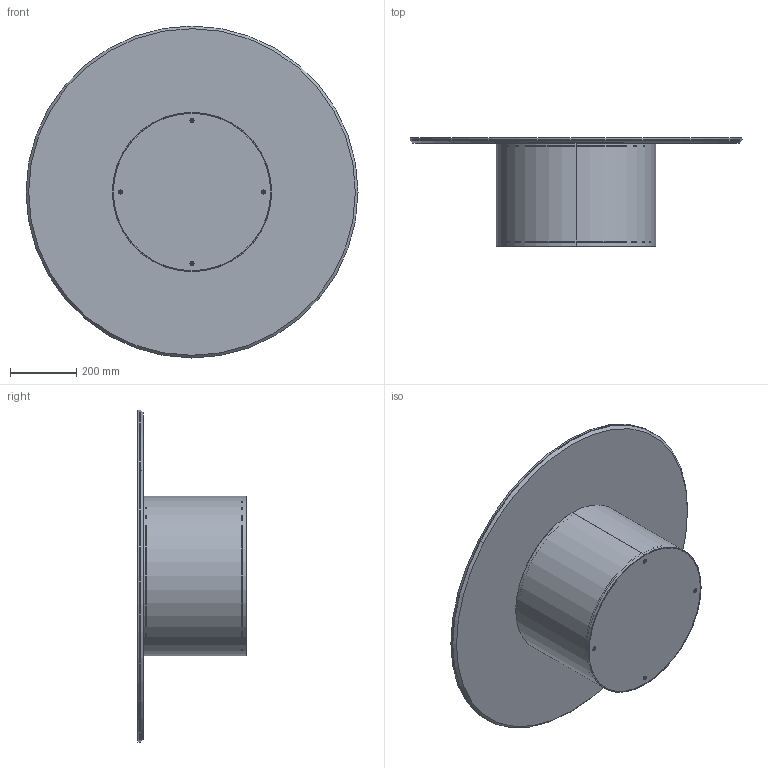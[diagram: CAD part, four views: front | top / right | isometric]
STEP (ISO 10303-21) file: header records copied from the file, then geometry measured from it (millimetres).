
FILE_DESCRIPTION (( 'STEP AP203' ), '1' );
FILE_NAME ('CL03C.STEP', '2024-08-06T10:14:58', ( '' ), ( '' ), 'SwSTEP 2.0', 'SolidWorks 2022', '' );
FILE_SCHEMA (( 'CONFIG_CONTROL_DESIGN' ));
Length unit declared in the file: millimetre
Products named in the file (12): M8xXXmm_M8X35mm; KXXCXX-00-Piani Rotondi in ceramica CON PIASTRA_K03P PIANO CERAMICA D.100cm; M6xXXmm_HEX_M6x20mm HEX; P0000003-00-STAFFA DI FISSAGGIO DIAMETRO 250_P0000003-250mm normale; P0000005-00-FILETTO M24 CON FORO H.20mm; CLB1000000_02-00-Fusto centrale d.48cm; CLB1000000_03-00-Zavorra cilindro low D.48cm; CLB1000000_04-00-Supporto Zavorra fusto D.48cm; K1XCMXX-00-Piani Rotondi in ceramica_D.1000; CLB1000000-00-CILINDRO LOW D.48cm BASE GREZZA; CL03C; CLB1000000_01-00-Supporto piano fusto D.48cm
Assembly tree (14 placements, depth 3):
  CL03C
    CLB1000000-00-CILINDRO LOW D.48cm BASE GREZZA
      CLB1000000_02-00-Fusto centrale d.48cm
      CLB1000000_03-00-Zavorra cilindro low D.48cm
      CLB1000000_01-00-Supporto piano fusto D.48cm
      CLB1000000_04-00-Supporto Zavorra fusto D.48cm
      M6xXXmm_HEX_M6x20mm HEX  x4
    KXXCXX-00-Piani Rotondi in ceramica CON PIASTRA_K03P PIANO CERAMICA D.100cm
      K1XCMXX-00-Piani Rotondi in ceramica_D.1000
      P0000003-00-STAFFA DI FISSAGGIO DIAMETRO 250_P0000003-250mm normale
      M8xXXmm_M8X35mm
      P0000005-00-FILETTO M24 CON FORO H.20mm
Bounding box: 1000 x 326 x 1000 mm (x, y, z)
Volume: 15988081.7 mm3; surface area: 4871879.4 mm2
Topology: 15 solids, 15 shells, 298 faces, 659 edges, 386 vertices
Faces by surface type: plane 128, cylinder 100, cone 53, torus 12, bspline 5
Entity records: 9543 total; most frequent: CARTESIAN_POINT 3747, DIRECTION 964, ORIENTED_EDGE 902, EDGE_CURVE 451, AXIS2_PLACEMENT_3D 394, VERTEX_POINT 281, EDGE_LOOP 234, ADVANCED_FACE 196
